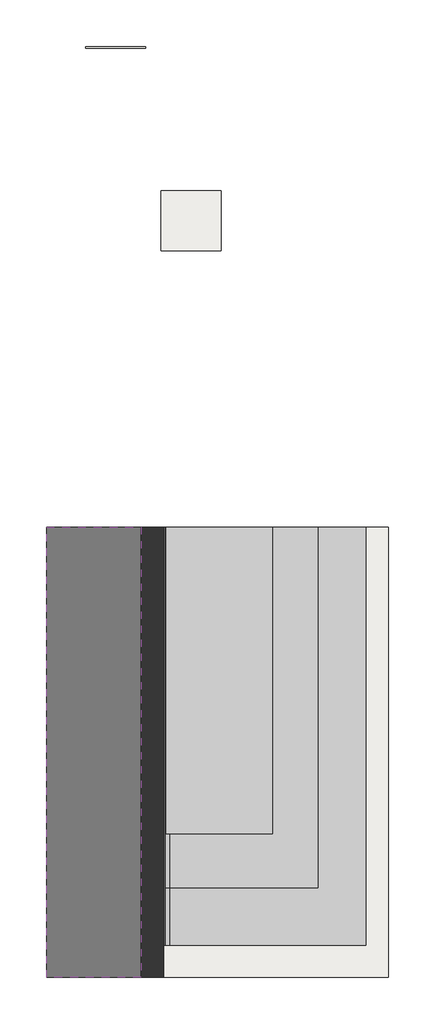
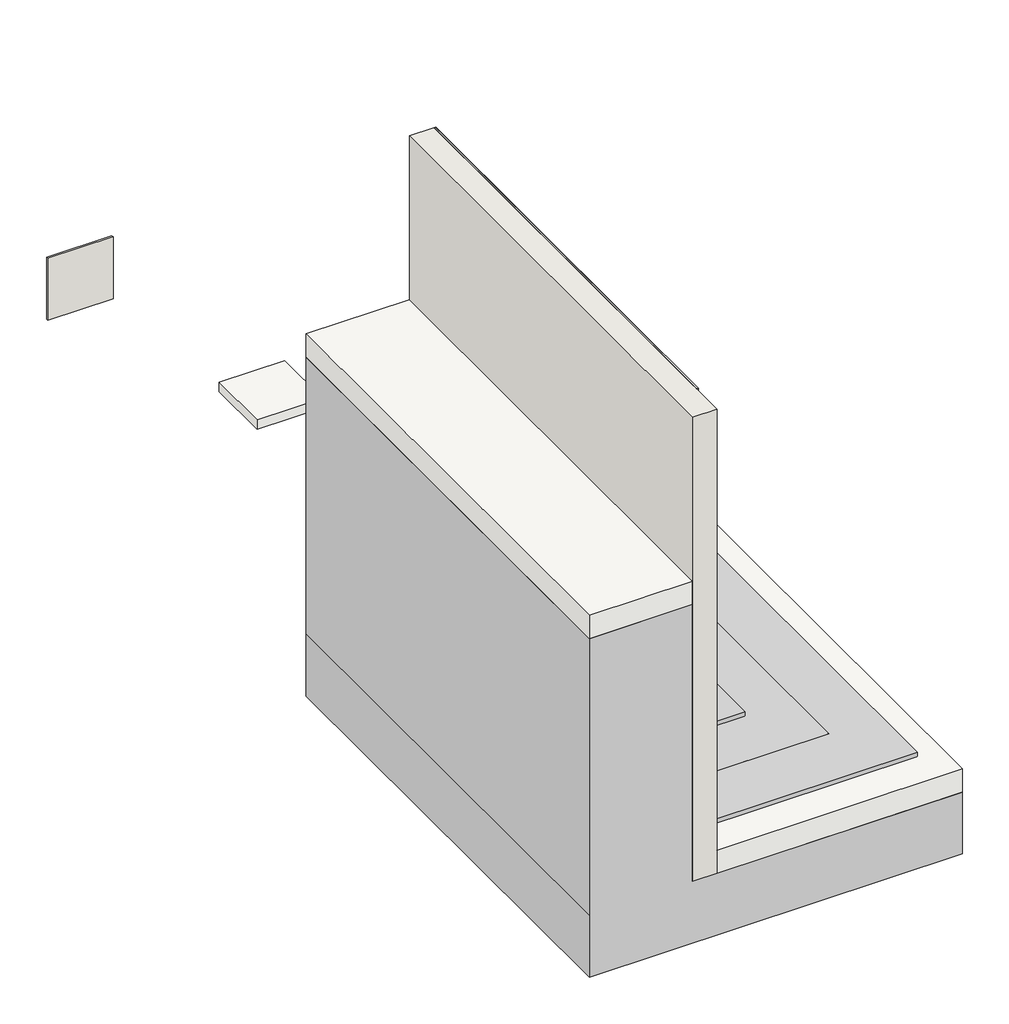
# One storey: 3 slabs, 2 walls, 1 proxy.
"""IFC4 building model written with IfcOpenShell, lengths in millimetres."""

from ifc_helpers import new_model, si_unit, frame, origin, place, context, project, spatial, polyline, outline, extrude, transform, mapped, element, save
from components import generic_models_1f95e9b6

model = new_model("IFC4")

# Units and contexts
model_context = context("Model", 3, world=origin())
ifc_project = project(units=[si_unit("LENGTHUNIT", "METRE", prefix="MILLI")], contexts=[model_context])

# Site, building, storey
site = spatial("IfcSite", under=ifc_project)
building = spatial("IfcBuilding", under=site)
storey = spatial("IfcBuildingStorey", under=building, Name="ARQ Térreo", Elevation=-2.523798)

# Proxy
placement = place(None, origin())
generic_models_shape = generic_models_1f95e9b6(model_context)
element("IfcBuildingElementProxy", 1, Name="IMPER:IMPER:433934 : IMPER:IMPER:433934", ObjectType="IMPER:IMPER:433934 : IMPER:IMPER:433934", at=placement, inside=storey, context=model_context, shape_type="MappedRepresentation", body=[
    mapped(generic_models_shape, transform((0.0, 0.0, 0.0), x_axis=(1.0, 0.0, 0.0), y_axis=(0.0, 1.0, 0.0), z_axis=(0.0, 0.0, 1.0))),
])

# Slabs
element("IfcSlab", 2, ObjectType="Genérico 150 mm", at=placement, inside=storey, context=model_context, shape_type="SweptSolid", body=[
    extrude(outline(polyline([(-351.9704105, 145.8700195), (1148.0295895, 145.8700195), (1148.0295895, -2854.1299805), (-351.9704105, -2854.1299805), (-351.9704105, 145.8700195)])), frame((0.0, 0.0, -2.523798), z_axis=(0.0, 0.0, 1.0), x_axis=(1.0, 0.0, 0.0)), (0.0, 0.0, 1.0), 150.0),
])
element("IfcSlab", 3, ObjectType="Genérico 150 mm", at=placement, inside=storey, context=model_context, shape_type="SweptSolid", body=[
    extrude(outline(polyline([(-1133.0721601, 145.8700195), (-501.9704105, 145.8700195), (-501.9704105, -2854.1299805), (-1133.0721601, -2854.1299805), (-1133.0721601, 145.8700195)])), frame((0.0, 0.0, 1787.9453576), z_axis=(0.0, 0.0, 1.0), x_axis=(1.0, 0.0, 0.0)), (0.0, 0.0, 1.0), 150.0),
])
element("IfcSlab", 4, ObjectType="IMPH_VP1000", at=placement, inside=storey, context=model_context, shape_type="SweptSolid", body=[
    extrude(outline(polyline([(31.1278084, 1990.496796), (-368.8721916, 1990.496796), (-368.8721916, 2390.496796), (31.1278084, 2390.496796), (31.1278084, 1990.496796)])), frame((0.0, 0.0, -63.523798), z_axis=(0.0, 0.0, 1.0), x_axis=(1.0, 0.0, 0.0)), (0.0, 0.0, 1.0), 61.0),
])

# Walls
element("IfcWall", 5, ObjectType="Parede básica:Parede Concreto", at=placement, inside=storey, context=model_context, shape_type="SweptSolid", body=[
    extrude(outline(polyline([(-501.9704105, -2854.1299805), (-501.9704105, 145.8700195), (-351.9704105, 145.8700195), (-351.9704105, -2854.1299805), (-501.9704105, -2854.1299805)])), frame((0.0, 0.0, -2.523798), z_axis=(0.0, 0.0, 1.0), x_axis=(1.0, 0.0, 0.0)), (0.0, 0.0, 1.0), 3000.0),
])
element("IfcWall", 6, ObjectType="IMPV_VP1000", at=placement, inside=storey, context=model_context, shape_type="SweptSolid", body=[
    extrude(outline(polyline([(-870.3325309, 3351.8700195), (-470.3325309, 3351.8700195), (-470.3325309, 3339.8700195), (-870.3325309, 3339.8700195), (-870.3325309, 3351.8700195)])), frame((0.0, 0.0, -2.523798), z_axis=(0.0, 0.0, 1.0), x_axis=(1.0, 0.0, 0.0)), (0.0, 0.0, 1.0), 400.0),
])

save(model, "model.ifc")
